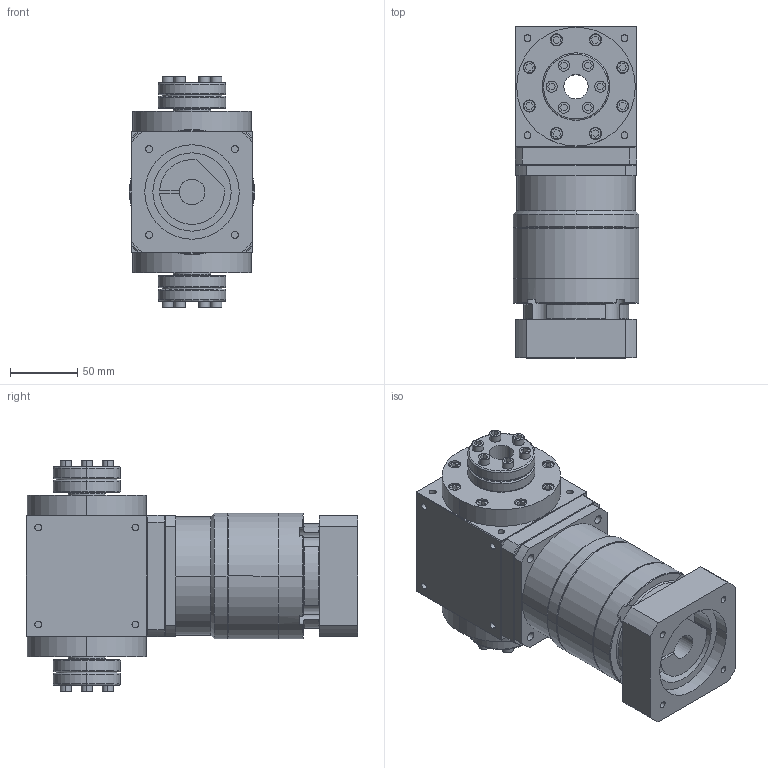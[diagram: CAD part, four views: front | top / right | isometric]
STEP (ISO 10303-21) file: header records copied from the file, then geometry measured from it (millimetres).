
FILE_DESCRIPTION (( 'STEP AP203' ), '1' );
FILE_NAME ('AT090-FC-L2 19-70-90-M6.STEP', '2024-12-19T06:29:19', ( '' ), ( '' ), 'SwSTEP 2.0', 'SolidWorks 2021', '' );
FILE_SCHEMA (( 'CONFIG_CONTROL_DESIGN' ));
Length unit declared in the file: millimetre
Products named in the file (3): AT090-FC; VRB-090-L2-S2-P1 19-70-90-M6; AT090-FC-L2 19-70-90-M6
Assembly tree (2 placements, depth 2):
  AT090-FC-L2 19-70-90-M6
    AT090-FC
    VRB-090-L2-S2-P1 19-70-90-M6
Bounding box: 93 x 246 x 172 mm (x, y, z)
Volume: 2010793.1 mm3; surface area: 177829.3 mm2
Topology: 2 solids, 2 shells, 691 faces, 1645 edges, 1050 vertices
Faces by surface type: plane 355, cylinder 261, cone 49, bspline 26
Entity records: 20817 total; most frequent: CARTESIAN_POINT 4562, DIRECTION 3346, ORIENTED_EDGE 3286, EDGE_CURVE 1643, AXIS2_PLACEMENT_3D 1214, VERTEX_POINT 1050, LINE 918, VECTOR 918
